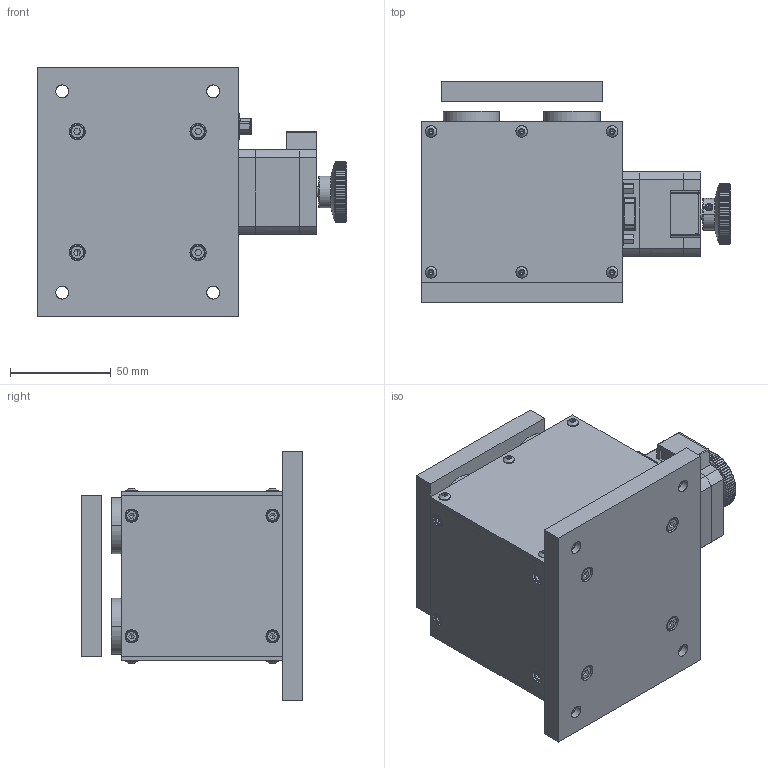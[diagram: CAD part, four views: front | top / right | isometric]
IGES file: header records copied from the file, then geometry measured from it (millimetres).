
Start section: SolidWorks IGES file using analytic representation for surfaces
Global section: file name: C:\Users\dubin\Desktop\9.18-2\萇雄汔蔥怢\PT80-30\PT80-30.IGS; native system: SolidWorks 2017; preprocessor: SolidWorks 2017; author: PDV; date: 220918.165247; units: millimetre
Bounding box: 154 x 110 x 124 mm (x, y, z)
Surface area: 103386.7 mm2 (no closed solid volume)
Topology: 0 solids, 0 shells, 992 faces, 11620 edges, 11547 vertices
Faces by surface type: bspline 545, revolution 447
